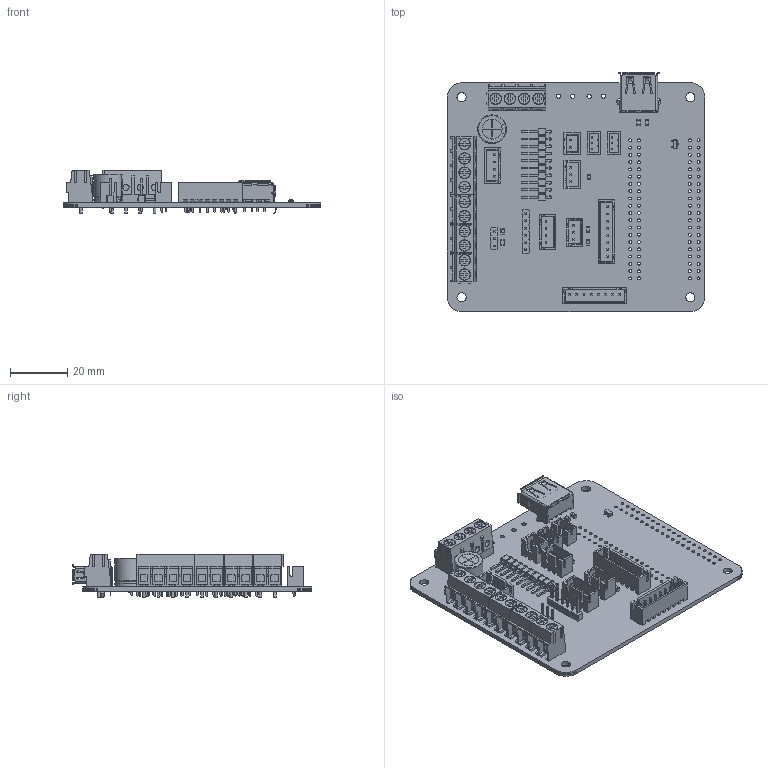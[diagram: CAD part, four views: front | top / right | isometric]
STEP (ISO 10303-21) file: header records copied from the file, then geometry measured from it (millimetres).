
FILE_DESCRIPTION(('KiCad electronic assembly'),'2;1');
FILE_NAME('mirte-master.step','2024-02-19T14:20:20',('Pcbnew'),('Kicad') ,'Open CASCADE STEP processor 7.7','KiCad to STEP converter','Unknown' );
FILE_SCHEMA(('AUTOMOTIVE_DESIGN { 1 0 10303 214 1 1 1 1 }'));
Length unit declared in the file: millimetre
Products named in the file (32): mirte-master 1; PinHeader_1x06_P2.54mm_Vertical; SOLID; JST_XH_B2B-XH-A_1x02_P2.50mm_Vertical; C_0805_2012Metric; CP_Radial_D10.0mm_P3.50mm; TerminalBlock_Phoenix_PT-1,5-2-5.0-H_1x02_P5.00mm_Horizontal; JST_XH_B4B-XH-A_1x04_P2.50mm_Vertical; JST_XH_B3B-XH-A_1x03_P2.50mm_Vertical; JST_XH_B8B-XH-A_1x08_P2.50mm_Vertical; TerminalBlock_Phoenix_PT-1,5-4-5.0-H_1x04_P5.00mm_Horizontal; R_0805_2012Metric; PinHeader_1x10_P2.54mm_Horizontal; USB-A-TH_4P-L14.5-W14.0-H7.6-S2.71; COMPOUND; JST_PH_B3B-PH-K_1x03_P2.00mm_Vertical; PinHeader_1x03_P2.54mm_Vertical; SOT-23; mirte-master PCB
Assembly tree (43 placements, depth 3):
  mirte-master 1
    PinHeader_1x06_P2.54mm_Vertical
      SOLID
    JST_XH_B2B-XH-A_1x02_P2.50mm_Vertical
      SOLID
    C_0805_2012Metric  x6
      SOLID
    CP_Radial_D10.0mm_P3.50mm
      SOLID
    TerminalBlock_Phoenix_PT-1,5-2-5.0-H_1x02_P5.00mm_Horizontal  x3
      SOLID
    JST_XH_B4B-XH-A_1x04_P2.50mm_Vertical  x2
      SOLID
    JST_XH_B3B-XH-A_1x03_P2.50mm_Vertical  x2
      SOLID
    JST_XH_B8B-XH-A_1x08_P2.50mm_Vertical  x2
      SOLID
    TerminalBlock_Phoenix_PT-1,5-4-5.0-H_1x04_P5.00mm_Horizontal  x2
      SOLID
    R_0805_2012Metric
      SOLID
    PinHeader_1x10_P2.54mm_Horizontal
      SOLID
    USB-A-TH_4P-L14.5-W14.0-H7.6-S2.71
      COMPOUND
    JST_PH_B3B-PH-K_1x03_P2.00mm_Vertical  x2
      SOLID
    PinHeader_1x03_P2.54mm_Vertical
      SOLID
    SOT-23
      SOLID
    mirte-master PCB
Bounding box: 90.05 x 83.7 x 15.27 mm (x, y, z)
Volume: 19854.3 mm3; surface area: 31433.2 mm2
Topology: 29 solids, 30 shells, 4027 faces, 10665 edges, 6894 vertices
Faces by surface type: plane 3157, cylinder 704, bspline 156, revolution 4, sphere 4, torus 2
Full cylindrical faces by diameter (mm): 0.5 x2, 0.75 x6, 0.95 x34, 1 x117, 1.3 x14, 1.5 x4, 2.2 x14, 2.3 x2, 3.2 x4, 3.8 x14, 4 x14
Entity records: 211373 total; most frequent: CARTESIAN_POINT 45701, DIRECTION 26660, LINE 18909, VECTOR 18909, ORIENTED_EDGE 14808, PCURVE 14808, DEFINITIONAL_REPRESENTATION 14808, EDGE_CURVE 7404
